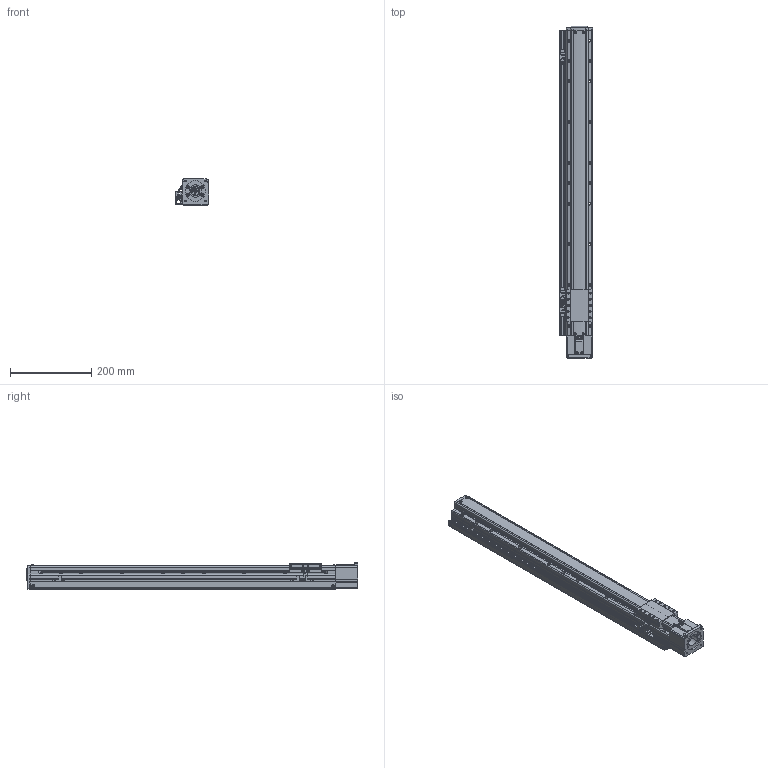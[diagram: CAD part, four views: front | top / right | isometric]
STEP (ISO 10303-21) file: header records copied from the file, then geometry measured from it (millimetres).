
FILE_DESCRIPTION(('STEP AP214'),'1');
FILE_NAME('Z:/Web/3D/PSA65/STP/PSA65-600 (3D)/PSA65ㅁㅁ-600S+3SL.stp','2014-06-25T05:05:40',(' '),(' '),'Spatial InterOp 3D',' ',' ');
FILE_SCHEMA(('automotive_design'));
Length unit declared in the file: millimetre
Products named in the file (98): SLIDE; RRCV-PA060; 1; 2; 3; 4; 5; 6; 7; 8; 9; 10; 11; 12; 13; 14; 15; 16; 17; 18; 19; 20; 21; 22; 23; 24; 25; 26; 27; 28; 29; 30; 31; 스크루 : Round - M3.0 x 8.0; RN8 x 0.75; SHAFT-SAN65; BASE; 스크루 : Round - M3.0 x 6.0; MTHZ - PSA65-60A; CPLCV-SAN45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
Bounding box: 81 x 814.8 x 65 mm (x, y, z)
Volume: 2577563.9 mm3; surface area: 435086.8 mm2
Topology: 98 solids, 98 shells, 2901 faces, 7653 edges, 4927 vertices
Faces by surface type: plane 1575, cylinder 884, cone 349, sphere 50, bspline 23, torus 20
Entity records: 116272 total; most frequent: CARTESIAN_POINT 18211, DIRECTION 15773, ORIENTED_EDGE 15046, EDGE_CURVE 7523, AXIS2_PLACEMENT_3D 5467, VERTEX_POINT 4927, LINE 4839, VECTOR 4839
